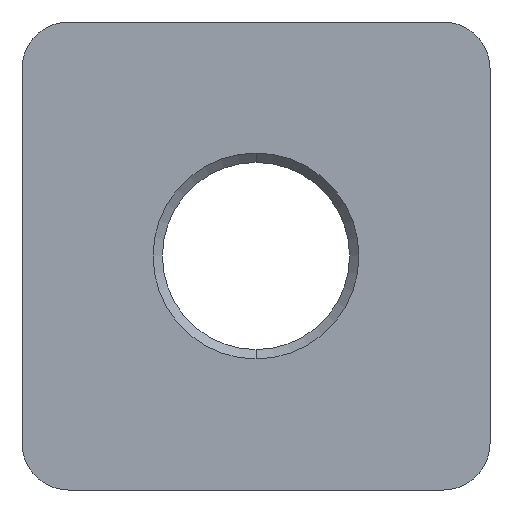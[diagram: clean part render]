
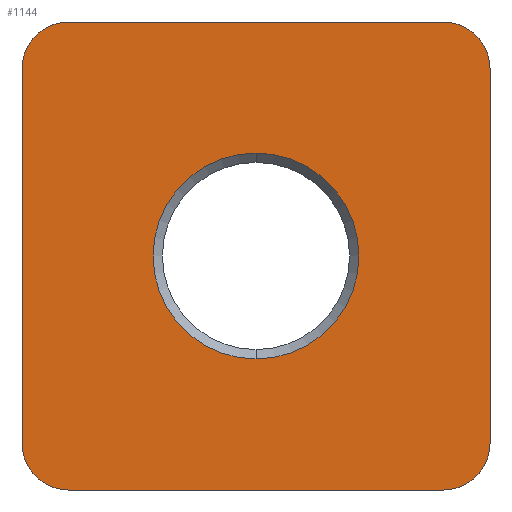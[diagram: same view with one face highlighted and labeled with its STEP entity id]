
A CAD part, front view. The second image highlights one B-rep face of the part: STEP entity #1144.
In plain terms, the highlighted planar face has unit normal (0, -1, 0).
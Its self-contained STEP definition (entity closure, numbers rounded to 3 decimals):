
#8 = EDGE_CURVE ( 'NONE', #65, #45, #366, .T. ) ;
#39 = VERTEX_POINT ( 'NONE', #374 ) ;
#45 = VERTEX_POINT ( 'NONE', #428 ) ;
#59 = EDGE_CURVE ( 'NONE', #108, #65, #468, .T. ) ;
#65 = VERTEX_POINT ( 'NONE', #458 ) ;
#77 = EDGE_CURVE ( 'NONE', #39, #108, #493, .T. ) ;
#96 = VERTEX_POINT ( 'NONE', #522 ) ;
#104 = EDGE_CURVE ( 'NONE', #45, #96, #510, .T. ) ;
#108 = VERTEX_POINT ( 'NONE', #557 ) ;
#128 = EDGE_CURVE ( 'NONE', #129, #143, #582, .T. ) ;
#129 = VERTEX_POINT ( 'NONE', #577 ) ;
#143 = VERTEX_POINT ( 'NONE', #619 ) ;
#363 = DIRECTION ( 'NONE',  ( 1., 0., 0. ) ) ;
#364 = VECTOR ( 'NONE', #363, 1000. ) ;
#365 = CARTESIAN_POINT ( 'NONE',  ( -16., 0., 20. ) ) ;
#366 = LINE ( 'NONE', #365, #364 ) ;
#374 = CARTESIAN_POINT ( 'NONE',  ( -20., 0., -16. ) ) ;
#428 = CARTESIAN_POINT ( 'NONE',  ( 16., 0., 20. ) ) ;
#458 = CARTESIAN_POINT ( 'NONE',  ( -16., 0., 20. ) ) ;
#464 = DIRECTION ( 'NONE',  ( 0., 0., -1. ) ) ;
#465 = DIRECTION ( 'NONE',  ( 0., 1., 0. ) ) ;
#466 = CARTESIAN_POINT ( 'NONE',  ( -16., 0., 16. ) ) ;
#467 = AXIS2_PLACEMENT_3D ( 'NONE', #466, #465, #464 ) ;
#468 = CIRCLE ( 'NONE', #467, 4. ) ;
#490 = DIRECTION ( 'NONE',  ( 0., 0., 1. ) ) ;
#491 = VECTOR ( 'NONE', #490, 1000. ) ;
#492 = CARTESIAN_POINT ( 'NONE',  ( -20., 0., 16. ) ) ;
#493 = LINE ( 'NONE', #492, #491 ) ;
#506 = DIRECTION ( 'NONE',  ( 0., 0., 1. ) ) ;
#507 = DIRECTION ( 'NONE',  ( 0., 1., 0. ) ) ;
#508 = CARTESIAN_POINT ( 'NONE',  ( 16., 0., 16. ) ) ;
#509 = AXIS2_PLACEMENT_3D ( 'NONE', #508, #507, #506 ) ;
#510 = CIRCLE ( 'NONE', #509, 4. ) ;
#522 = CARTESIAN_POINT ( 'NONE',  ( 20., 0., 16. ) ) ;
#557 = CARTESIAN_POINT ( 'NONE',  ( -20., 0., 16. ) ) ;
#577 = CARTESIAN_POINT ( 'NONE',  ( 0., 0., -8.8 ) ) ;
#578 = DIRECTION ( 'NONE',  ( 0., 0., 1. ) ) ;
#579 = DIRECTION ( 'NONE',  ( 0., 1., 0. ) ) ;
#580 = CARTESIAN_POINT ( 'NONE',  ( 0., 0., 0. ) ) ;
#581 = AXIS2_PLACEMENT_3D ( 'NONE', #580, #579, #578 ) ;
#582 = CIRCLE ( 'NONE', #581, 8.8 ) ;
#619 = CARTESIAN_POINT ( 'NONE',  ( 0., 0., 8.8 ) ) ;
#913 = CARTESIAN_POINT ( 'NONE',  ( 20., 0., -16. ) ) ;
#921 = DIRECTION ( 'NONE',  ( 0., 0., -1. ) ) ;
#922 = VECTOR ( 'NONE', #921, 1000. ) ;
#923 = CARTESIAN_POINT ( 'NONE',  ( 20., 0., 16. ) ) ;
#924 = LINE ( 'NONE', #923, #922 ) ;
#926 = CARTESIAN_POINT ( 'NONE',  ( 16., 0., -20. ) ) ;
#948 = DIRECTION ( 'NONE',  ( -1., 0., 0. ) ) ;
#949 = VECTOR ( 'NONE', #948, 1000. ) ;
#950 = CARTESIAN_POINT ( 'NONE',  ( -16., 0., -20. ) ) ;
#951 = LINE ( 'NONE', #950, #949 ) ;
#952 = DIRECTION ( 'NONE',  ( 0., 0., 1. ) ) ;
#953 = DIRECTION ( 'NONE',  ( 0., 1., 0. ) ) ;
#954 = CARTESIAN_POINT ( 'NONE',  ( -16., 0., -16. ) ) ;
#955 = AXIS2_PLACEMENT_3D ( 'NONE', #954, #953, #952 ) ;
#956 = PLANE ( 'NONE',  #955 ) ;
#957 = FACE_OUTER_BOUND ( 'NONE', #1131, .T. ) ;
#958 = FACE_BOUND ( 'NONE', #1136, .T. ) ;
#963 = CARTESIAN_POINT ( 'NONE',  ( -16., 0., -20. ) ) ;
#964 = DIRECTION ( 'NONE',  ( 0., 0., 1. ) ) ;
#965 = DIRECTION ( 'NONE',  ( 0., 1., 0. ) ) ;
#966 = CARTESIAN_POINT ( 'NONE',  ( 0., 0., 0. ) ) ;
#967 = AXIS2_PLACEMENT_3D ( 'NONE', #966, #965, #964 ) ;
#968 = CIRCLE ( 'NONE', #967, 8.8 ) ;
#974 = CARTESIAN_POINT ( 'NONE',  ( 16., 0., -16. ) ) ;
#988 = DIRECTION ( 'NONE',  ( 0., 0., 1. ) ) ;
#989 = DIRECTION ( 'NONE',  ( 0., 1., 0. ) ) ;
#990 = AXIS2_PLACEMENT_3D ( 'NONE', #997, #989, #988 ) ;
#991 = CIRCLE ( 'NONE', #990, 4. ) ;
#997 = CARTESIAN_POINT ( 'NONE',  ( -16., 0., -16. ) ) ;
#1019 = DIRECTION ( 'NONE',  ( 0., 0., -1. ) ) ;
#1020 = DIRECTION ( 'NONE',  ( 0., 1., 0. ) ) ;
#1021 = AXIS2_PLACEMENT_3D ( 'NONE', #974, #1020, #1019 ) ;
#1022 = CIRCLE ( 'NONE', #1021, 4. ) ;
#1114 = VERTEX_POINT ( 'NONE', #926 ) ;
#1118 = EDGE_CURVE ( 'NONE', #96, #1128, #924, .T. ) ;
#1120 = ORIENTED_EDGE ( 'NONE', *, *, #77, .F. ) ;
#1121 = ORIENTED_EDGE ( 'NONE', *, *, #1118, .F. ) ;
#1122 = ORIENTED_EDGE ( 'NONE', *, *, #1168, .F. ) ;
#1123 = ORIENTED_EDGE ( 'NONE', *, *, #8, .F. ) ;
#1124 = ORIENTED_EDGE ( 'NONE', *, *, #59, .F. ) ;
#1125 = ORIENTED_EDGE ( 'NONE', *, *, #104, .F. ) ;
#1128 = VERTEX_POINT ( 'NONE', #913 ) ;
#1129 = ORIENTED_EDGE ( 'NONE', *, *, #1145, .F. ) ;
#1131 = EDGE_LOOP ( 'NONE', ( #1132, #1129, #1122, #1121, #1125, #1123, #1124, #1120 ) ) ;
#1132 = ORIENTED_EDGE ( 'NONE', *, *, #1157, .F. ) ;
#1133 = EDGE_CURVE ( 'NONE', #143, #129, #968, .T. ) ;
#1134 = ORIENTED_EDGE ( 'NONE', *, *, #128, .T. ) ;
#1135 = ORIENTED_EDGE ( 'NONE', *, *, #1133, .T. ) ;
#1136 = EDGE_LOOP ( 'NONE', ( #1134, #1135 ) ) ;
#1141 = VERTEX_POINT ( 'NONE', #963 ) ;
#1144 = ADVANCED_FACE ( 'NONE', ( #958, #957 ), #956, .F. ) ;
#1145 = EDGE_CURVE ( 'NONE', #1114, #1141, #951, .T. ) ;
#1157 = EDGE_CURVE ( 'NONE', #1141, #39, #991, .T. ) ;
#1168 = EDGE_CURVE ( 'NONE', #1128, #1114, #1022, .T. ) ;
